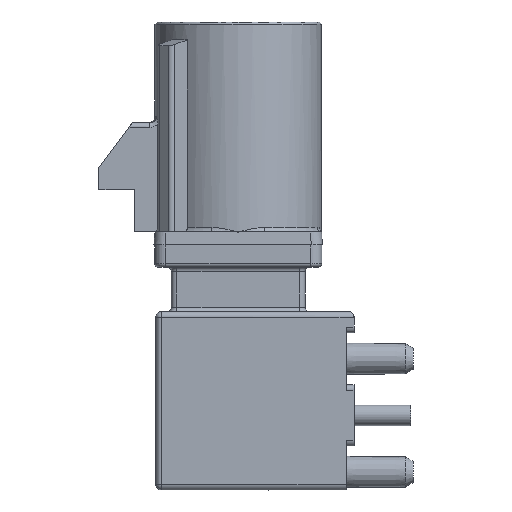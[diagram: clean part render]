
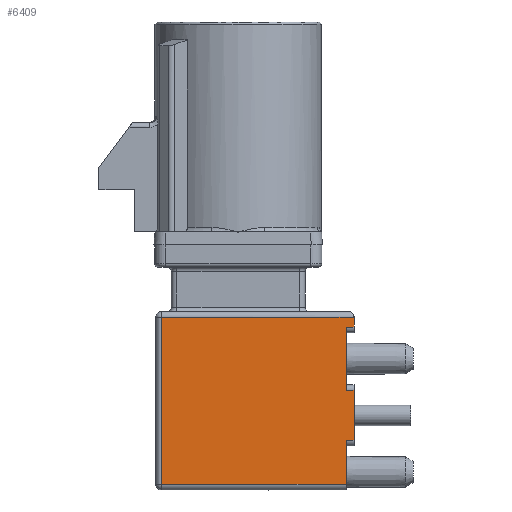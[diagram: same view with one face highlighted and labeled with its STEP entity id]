
A CAD part, left-side view. The second image highlights one B-rep face of the part: STEP entity #6409.
In plain terms, the highlighted planar face has unit normal (-1, 0, 0).
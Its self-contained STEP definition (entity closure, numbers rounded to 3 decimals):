
#295=DIRECTION('',(0.,0.,1.));
#296=VECTOR('',#295,1.98);
#297=CARTESIAN_POINT('',(-3.5,-4.85,-20.75));
#298=LINE('',#297,#296);
#311=DIRECTION('',(0.,0.,1.));
#312=VECTOR('',#311,2.84);
#313=CARTESIAN_POINT('',(-3.5,-4.85,-16.53));
#314=LINE('',#313,#312);
#581=DIRECTION('',(0.,0.,1.));
#582=VECTOR('',#581,2.24);
#583=CARTESIAN_POINT('',(-3.5,-5.2,-18.77));
#584=LINE('',#583,#582);
#626=DIRECTION('',(0.,0.,1.));
#627=VECTOR('',#626,0.44);
#628=CARTESIAN_POINT('',(-3.5,-5.2,-13.69));
#629=LINE('',#628,#627);
#1001=DIRECTION('',(0.,-1.,0.));
#1002=VECTOR('',#1001,0.35);
#1003=CARTESIAN_POINT('',(-3.5,-4.85,-18.77));
#1004=LINE('',#1003,#1002);
#1005=DIRECTION('',(0.,1.,0.));
#1006=VECTOR('',#1005,8.3);
#1007=CARTESIAN_POINT('',(-3.5,-4.85,-20.75));
#1008=LINE('',#1007,#1006);
#1009=DIRECTION('',(0.,0.,-1.));
#1010=VECTOR('',#1009,7.5);
#1011=CARTESIAN_POINT('',(-3.5,3.45,-13.25));
#1012=LINE('',#1011,#1010);
#1013=DIRECTION('',(0.,-1.,0.));
#1014=VECTOR('',#1013,8.65);
#1015=CARTESIAN_POINT('',(-3.5,3.45,-13.25));
#1016=LINE('',#1015,#1014);
#1017=DIRECTION('',(0.,-1.,0.));
#1018=VECTOR('',#1017,0.35);
#1019=CARTESIAN_POINT('',(-3.5,-4.85,-13.69));
#1020=LINE('',#1019,#1018);
#1021=DIRECTION('',(0.,1.,0.));
#1022=VECTOR('',#1021,0.35);
#1023=CARTESIAN_POINT('',(-3.5,-5.2,-16.53));
#1024=LINE('',#1023,#1022);
#5115=CARTESIAN_POINT('',(-3.5,-5.2,-18.77));
#5117=VERTEX_POINT('',#5115);
#5121=CARTESIAN_POINT('',(-3.5,-4.85,-18.77));
#5122=VERTEX_POINT('',#5121);
#5127=CARTESIAN_POINT('',(-3.5,-5.2,-16.53));
#5128=VERTEX_POINT('',#5127);
#5129=CARTESIAN_POINT('',(-3.5,-4.85,-16.53));
#5130=VERTEX_POINT('',#5129);
#5187=CARTESIAN_POINT('',(-3.5,-4.85,-20.75));
#5189=VERTEX_POINT('',#5187);
#5193=CARTESIAN_POINT('',(-3.5,3.45,-20.75));
#5194=VERTEX_POINT('',#5193);
#5207=CARTESIAN_POINT('',(-3.5,-5.2,-13.25));
#5208=VERTEX_POINT('',#5207);
#5211=CARTESIAN_POINT('',(-3.5,3.45,-13.25));
#5212=VERTEX_POINT('',#5211);
#5303=CARTESIAN_POINT('',(-3.5,-5.2,-13.69));
#5304=VERTEX_POINT('',#5303);
#5329=CARTESIAN_POINT('',(-3.5,-4.85,-13.69));
#5330=VERTEX_POINT('',#5329);
#6387=CARTESIAN_POINT('',(-3.5,3.7,-21.));
#6388=DIRECTION('',(-1.,0.,0.));
#6389=DIRECTION('',(0.,-1.,0.));
#6390=AXIS2_PLACEMENT_3D('',#6387,#6388,#6389);
#6391=PLANE('',#6390);
#6393=ORIENTED_EDGE('',*,*,#6392,.F.);
#6394=ORIENTED_EDGE('',*,*,#5650,.F.);
#6396=ORIENTED_EDGE('',*,*,#6395,.T.);
#6398=ORIENTED_EDGE('',*,*,#6397,.F.);
#6400=ORIENTED_EDGE('',*,*,#6399,.T.);
#6401=ORIENTED_EDGE('',*,*,#6110,.F.);
#6402=ORIENTED_EDGE('',*,*,#6382,.F.);
#6403=ORIENTED_EDGE('',*,*,#5666,.F.);
#6405=ORIENTED_EDGE('',*,*,#6404,.F.);
#6406=ORIENTED_EDGE('',*,*,#6082,.F.);
#6407=EDGE_LOOP('',(#6393,#6394,#6396,#6398,#6400,#6401,#6402,#6403,#6405,
#6406));
#6408=FACE_OUTER_BOUND('',#6407,.F.);
#5650=EDGE_CURVE('',#5189,#5122,#298,.T.);
#5666=EDGE_CURVE('',#5130,#5330,#314,.T.);
#6082=EDGE_CURVE('',#5117,#5128,#584,.T.);
#6110=EDGE_CURVE('',#5304,#5208,#629,.T.);
#6382=EDGE_CURVE('',#5330,#5304,#1020,.T.);
#6392=EDGE_CURVE('',#5122,#5117,#1004,.T.);
#6395=EDGE_CURVE('',#5189,#5194,#1008,.T.);
#6397=EDGE_CURVE('',#5212,#5194,#1012,.T.);
#6399=EDGE_CURVE('',#5212,#5208,#1016,.T.);
#6404=EDGE_CURVE('',#5128,#5130,#1024,.T.);
#6409=ADVANCED_FACE('',(#6408),#6391,.T.);
